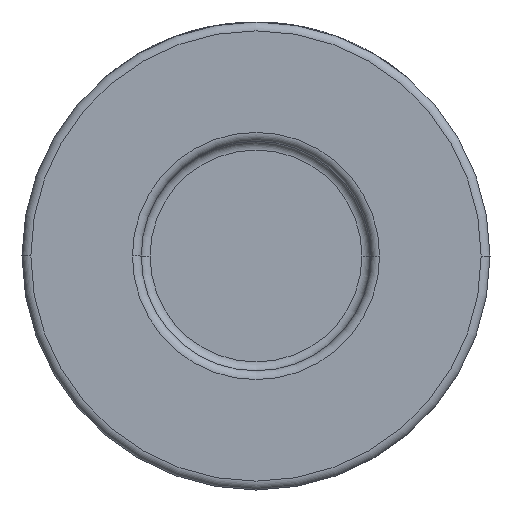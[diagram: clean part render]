
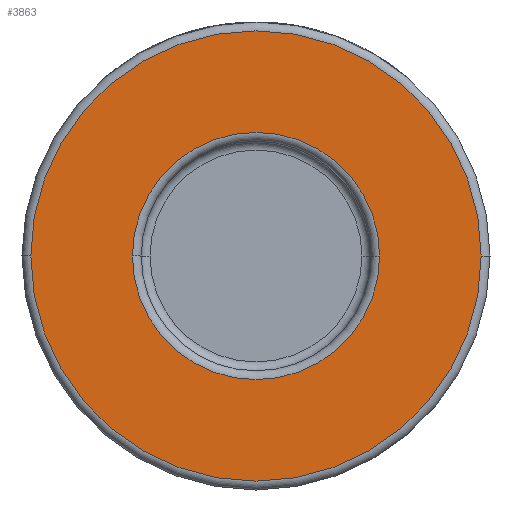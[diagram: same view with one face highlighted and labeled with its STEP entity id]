
A CAD part, front view. The second image highlights one B-rep face of the part: STEP entity #3863.
In plain terms, the highlighted planar face has unit normal (0, -1, 0).
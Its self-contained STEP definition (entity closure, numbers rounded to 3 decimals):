
#60 = EDGE_LOOP ( 'NONE', ( #192, #597 ) ) ;
#72 = AXIS2_PLACEMENT_3D ( 'NONE', #4361, #1586, #2914 ) ;
#110 = DIRECTION ( 'NONE',  ( 1., 0., 0. ) ) ;
#192 = ORIENTED_EDGE ( 'NONE', *, *, #1391, .T. ) ;
#330 = DIRECTION ( 'NONE',  ( 1., 0., 0. ) ) ;
#382 = DIRECTION ( 'NONE',  ( 0., -1., 0. ) ) ;
#568 = CIRCLE ( 'NONE', #72, 25.5 ) ;
#575 = CIRCLE ( 'NONE', #2694, 14. ) ;
#597 = ORIENTED_EDGE ( 'NONE', *, *, #4409, .T. ) ;
#647 = VERTEX_POINT ( 'NONE', #3504 ) ;
#724 = CARTESIAN_POINT ( 'NONE',  ( 0., -19., 0. ) ) ;
#772 = CARTESIAN_POINT ( 'NONE',  ( 0., -19., 0. ) ) ;
#918 = VERTEX_POINT ( 'NONE', #1408 ) ;
#1028 = AXIS2_PLACEMENT_3D ( 'NONE', #3831, #4202, #1062 ) ;
#1039 = FACE_BOUND ( 'NONE', #60, .T. ) ;
#1050 = DIRECTION ( 'NONE',  ( 0., 1., 0. ) ) ;
#1062 = DIRECTION ( 'NONE',  ( 1., 0., 0. ) ) ;
#1391 = EDGE_CURVE ( 'NONE', #918, #647, #1666, .T. ) ;
#1408 = CARTESIAN_POINT ( 'NONE',  ( 14., -19., 0. ) ) ;
#1456 = ORIENTED_EDGE ( 'NONE', *, *, #2705, .T. ) ;
#1586 = DIRECTION ( 'NONE',  ( 0., -1., 0. ) ) ;
#1666 = CIRCLE ( 'NONE', #4241, 14. ) ;
#1707 = CARTESIAN_POINT ( 'NONE',  ( 25.5, -19., 0. ) ) ;
#1778 = DIRECTION ( 'NONE',  ( 1., 0., 0. ) ) ;
#2428 = PLANE ( 'NONE',  #1028 ) ;
#2625 = AXIS2_PLACEMENT_3D ( 'NONE', #724, #382, #1778 ) ;
#2694 = AXIS2_PLACEMENT_3D ( 'NONE', #772, #1050, #110 ) ;
#2705 = EDGE_CURVE ( 'NONE', #3422, #4140, #568, .T. ) ;
#2727 = DIRECTION ( 'NONE',  ( 0., 1., 0. ) ) ;
#2765 = FACE_OUTER_BOUND ( 'NONE', #3256, .T. ) ;
#2914 = DIRECTION ( 'NONE',  ( 1., 0., 0. ) ) ;
#3256 = EDGE_LOOP ( 'NONE', ( #1456, #4272 ) ) ;
#3278 = CIRCLE ( 'NONE', #2625, 25.5 ) ;
#3422 = VERTEX_POINT ( 'NONE', #1707 ) ;
#3504 = CARTESIAN_POINT ( 'NONE',  ( -14., -19., 0. ) ) ;
#3740 = CARTESIAN_POINT ( 'NONE',  ( 0., -19., 0. ) ) ;
#3831 = CARTESIAN_POINT ( 'NONE',  ( 26.5, -19., 0. ) ) ;
#3848 = CARTESIAN_POINT ( 'NONE',  ( -25.5, -19., 0. ) ) ;
#3863 = ADVANCED_FACE ( 'NONE', ( #1039, #2765 ), #2428, .T. ) ;
#4140 = VERTEX_POINT ( 'NONE', #3848 ) ;
#4202 = DIRECTION ( 'NONE',  ( 0., -1., 0. ) ) ;
#4241 = AXIS2_PLACEMENT_3D ( 'NONE', #3740, #2727, #330 ) ;
#4272 = ORIENTED_EDGE ( 'NONE', *, *, #4496, .T. ) ;
#4361 = CARTESIAN_POINT ( 'NONE',  ( 0., -19., 0. ) ) ;
#4409 = EDGE_CURVE ( 'NONE', #647, #918, #575, .T. ) ;
#4496 = EDGE_CURVE ( 'NONE', #4140, #3422, #3278, .T. ) ;
